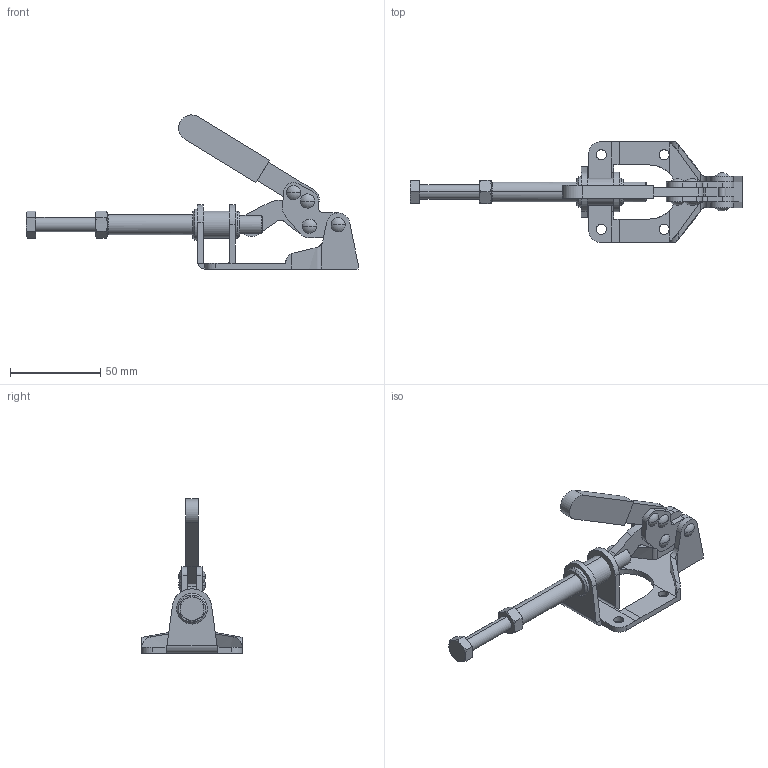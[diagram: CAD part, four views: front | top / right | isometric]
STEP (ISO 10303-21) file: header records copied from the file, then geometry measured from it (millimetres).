
FILE_DESCRIPTION(('CATIA V5 STEP Exchange'),'2;1');
FILE_NAME('D:\Model\toggle\toggle_standard\KJF_014_31F.stp','2005-06-24T04:35:07+00:00',('none'),('none'),'CATIA Version 5 Release 11 (IN-9)','CATIA V5 STEP AP203',' none');
FILE_SCHEMA(('CONFIG_CONTROL_DESIGN'));
Length unit declared in the file: millimetre
Products named in the file (1): Part1
Bounding box: 183.99 x 55.6 x 85.43 mm (x, y, z)
Volume: 47841.8 mm3; surface area: 29657.9 mm2
Topology: 13 solids, 13 shells, 216 faces, 553 edges, 357 vertices
Faces by surface type: plane 104, cylinder 65, cone 31, bspline 16
Entity records: 8346 total; most frequent: CARTESIAN_POINT 3562, ORIENTED_EDGE 1074, DIRECTION 751, EDGE_CURVE 537, VERTEX_POINT 357, AXIS2_PLACEMENT_3D 324, VECTOR 279, LINE 279
